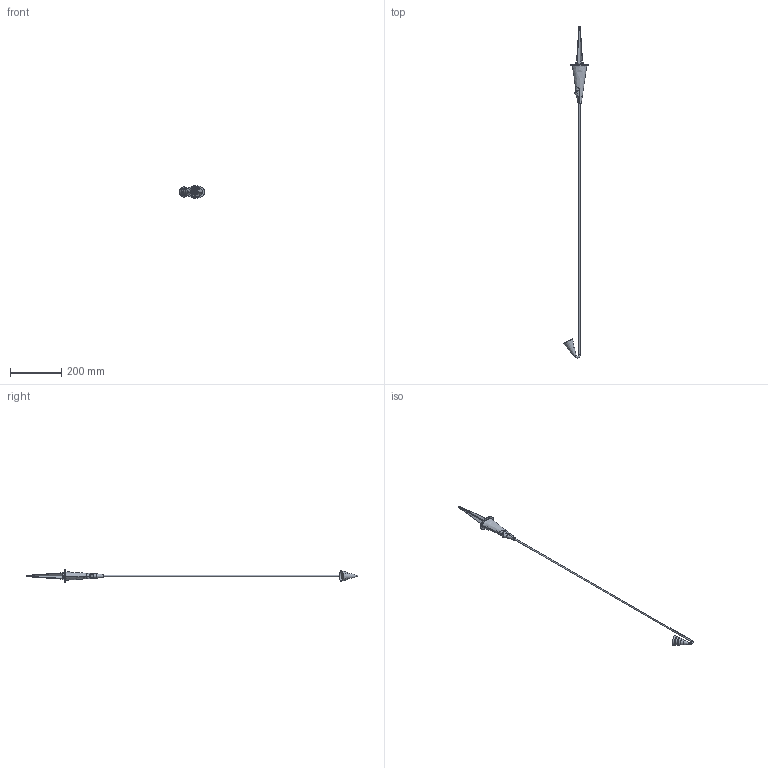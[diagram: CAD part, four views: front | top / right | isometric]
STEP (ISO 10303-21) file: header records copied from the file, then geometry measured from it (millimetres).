
FILE_DESCRIPTION( ( 'Unknown' ), '1' );
FILE_NAME( 'C:/Users/id1/Desktop/Marga/4625.stp', 'Unknown', ( 'Unknown' ), ( 'Unknown' ), 'PSStep 13.0', 'Unknown', ' ' );
FILE_SCHEMA( ( 'AUTOMOTIVE_DESIGN { 1 0 10303 214 1 1 1 1 }' ) );
Length unit declared in the file: millimetre
Products named in the file (15): 1; 2; 3; 4; 5; 6; 7; 8; 9; 10; 11; 12; 13; 14; 15
Bounding box: 98.33 x 1290.98 x 48.71 mm (x, y, z)
Volume: 49575.7 mm3; surface area: 101527.8 mm2
Topology: 9 solids, 62 shells, 386 faces, 1038 edges, 731 vertices
Faces by surface type: plane 249, cylinder 85, bspline 29, cone 18, torus 3, sphere 1, extrusion 1
Full cylindrical faces by diameter (mm): 2.459 x2, 3.242 x2, 4 x2, 4.25 x2, 5 x4, 5.3 x2, 5.5 x2, 6 x4, 6.5 x2, 8.5 x2, 11 x2, 13 x1, 31.5 x1
Entity records: 24802 total; most frequent: CARTESIAN_POINT 10969, DIRECTION 1784, ORIENTED_EDGE 1718, EDGE_CURVE 962, PRESENTATION_STYLE_ASSIGNMENT 787, COLOUR_RGB 787, VERTEX_POINT 703, AXIS2_PLACEMENT_3D 643
